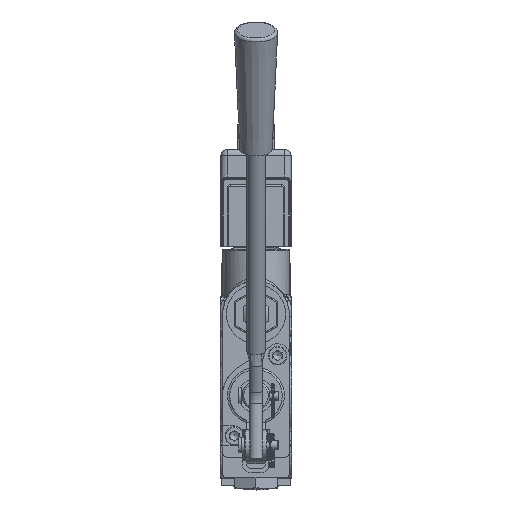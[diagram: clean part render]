
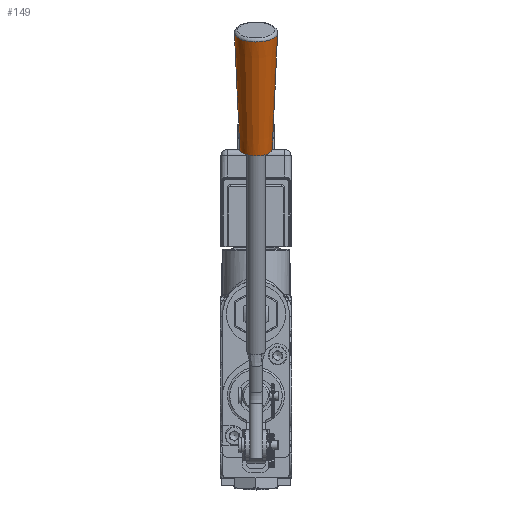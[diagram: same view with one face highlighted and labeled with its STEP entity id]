
A CAD part, top view. The second image highlights one B-rep face of the part: STEP entity #149.
In plain terms, the highlighted conical face has half-angle 2.418 degrees and reference radius 9.721 mm.
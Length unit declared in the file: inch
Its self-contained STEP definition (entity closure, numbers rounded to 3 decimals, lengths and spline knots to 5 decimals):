
#122=CARTESIAN_POINT('',(0.,6.15903,4.497));
#123=DIRECTION('',(0.,0.906,0.423));
#124=DIRECTION('',(0.149,-0.418,0.896));
#125=AXIS2_PLACEMENT_3D('',#122,#123,#124);
#126=CONICAL_SURFACE('',#125,0.38272,2.418);
#127=CARTESIAN_POINT('',(0.06525,7.15056,5.43663));
#128=VERTEX_POINT('',#127);
#129=CARTESIAN_POINT('',(0.,7.33336,5.0446));
#130=DIRECTION('',(0.,0.906,0.423));
#131=DIRECTION('',(0.149,-0.418,0.896));
#132=AXIS2_PLACEMENT_3D('',#129,#130,#131);
#133=CIRCLE('',#132,0.43745);
#134=EDGE_CURVE('',#128,#128,#133,.T.);
#135=ORIENTED_EDGE('',*,*,#134,.F.);
#136=EDGE_LOOP('',(#135));
#137=FACE_OUTER_BOUND('',#136,.T.);
#138=CARTESIAN_POINT('',(0.04893,4.84762,4.24334));
#139=VERTEX_POINT('',#138);
#140=CARTESIAN_POINT('',(0.,4.98469,3.9494));
#141=DIRECTION('',(0.,0.906,0.423));
#142=DIRECTION('',(0.149,-0.418,0.896));
#143=AXIS2_PLACEMENT_3D('',#140,#141,#142);
#144=CIRCLE('',#143,0.328);
#145=EDGE_CURVE('',#139,#139,#144,.T.);
#146=ORIENTED_EDGE('',*,*,#145,.T.);
#147=EDGE_LOOP('',(#146));
#148=FACE_BOUND('',#147,.T.);
#149=ADVANCED_FACE('',(#137,#148),#126,.T.);
